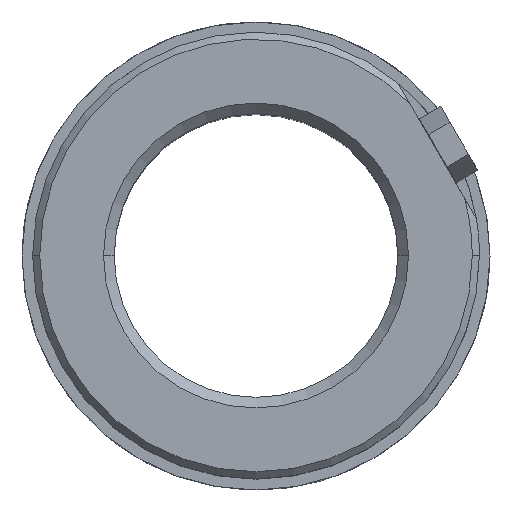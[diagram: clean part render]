
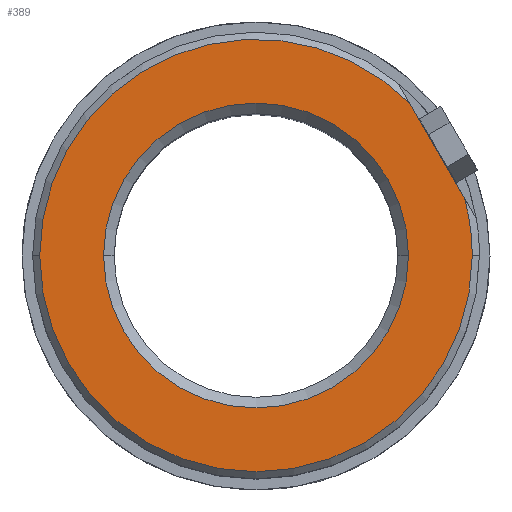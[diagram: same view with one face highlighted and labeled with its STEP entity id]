
A CAD part, top view. The second image highlights one B-rep face of the part: STEP entity #389.
In plain terms, the highlighted planar face has unit normal (0, 0, 1).
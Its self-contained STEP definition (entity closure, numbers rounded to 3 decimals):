
#262=CARTESIAN_POINT('Axis2P3D Location',(0.,0.,45.)) ;
#266=CARTESIAN_POINT('Vertex',(21.5,0.,45.)) ;
#268=CARTESIAN_POINT('Vertex',(-21.5,0.,45.)) ;
#341=CARTESIAN_POINT('Axis2P3D Location',(21.5,0.,45.)) ;
#346=CARTESIAN_POINT('Line Origine',(25.548,14.75,45.)) ;
#350=CARTESIAN_POINT('Vertex',(29.421,8.042,45.)) ;
#352=CARTESIAN_POINT('Vertex',(21.675,21.458,45.)) ;
#355=CARTESIAN_POINT('Axis2P3D Location',(0.,0.,45.)) ;
#359=CARTESIAN_POINT('Vertex',(-30.5,0.,45.)) ;
#362=CARTESIAN_POINT('Axis2P3D Location',(0.,0.,45.)) ;
#366=CARTESIAN_POINT('Vertex',(30.5,0.,45.)) ;
#369=CARTESIAN_POINT('Axis2P3D Location',(0.,0.,45.)) ;
#380=CARTESIAN_POINT('Axis2P3D Location',(0.,0.,45.)) ;
#263=DIRECTION('Axis2P3D Direction',(0.,-0.,1.)) ;
#342=DIRECTION('Axis2P3D Direction',(0.,-0.,1.)) ;
#343=DIRECTION('Axis2P3D XDirection',(1.,0.,0.)) ;
#347=DIRECTION('Vector Direction',(-0.5,0.866,0.)) ;
#356=DIRECTION('Axis2P3D Direction',(0.,-0.,1.)) ;
#363=DIRECTION('Axis2P3D Direction',(0.,-0.,1.)) ;
#370=DIRECTION('Axis2P3D Direction',(0.,-0.,1.)) ;
#381=DIRECTION('Axis2P3D Direction',(0.,-0.,1.)) ;
#264=AXIS2_PLACEMENT_3D('Circle Axis2P3D',#262,#263,$) ;
#344=AXIS2_PLACEMENT_3D('Plane Axis2P3D',#341,#342,#343) ;
#357=AXIS2_PLACEMENT_3D('Circle Axis2P3D',#355,#356,$) ;
#364=AXIS2_PLACEMENT_3D('Circle Axis2P3D',#362,#363,$) ;
#371=AXIS2_PLACEMENT_3D('Circle Axis2P3D',#369,#370,$) ;
#382=AXIS2_PLACEMENT_3D('Circle Axis2P3D',#380,#381,$) ;
#375=ORIENTED_EDGE('',*,*,#354,.T.) ;
#376=ORIENTED_EDGE('',*,*,#361,.T.) ;
#377=ORIENTED_EDGE('',*,*,#368,.T.) ;
#378=ORIENTED_EDGE('',*,*,#373,.T.) ;
#386=ORIENTED_EDGE('',*,*,#384,.F.) ;
#387=ORIENTED_EDGE('',*,*,#270,.F.) ;
#388=FACE_BOUND('',#385,.T.) ;
#348=VECTOR('Line Direction',#347,1.) ;
#389=ADVANCED_FACE('741-40',(#379,#388),#345,.T.) ;
#265=CIRCLE('generated circle',#264,21.5) ;
#358=CIRCLE('generated circle',#357,30.5) ;
#365=CIRCLE('generated circle',#364,30.5) ;
#372=CIRCLE('generated circle',#371,30.5) ;
#383=CIRCLE('generated circle',#382,21.5) ;
#270=EDGE_CURVE('',#267,#269,#265,.T.) ;
#354=EDGE_CURVE('',#351,#353,#349,.T.) ;
#361=EDGE_CURVE('',#353,#360,#358,.T.) ;
#368=EDGE_CURVE('',#360,#367,#365,.T.) ;
#373=EDGE_CURVE('',#367,#351,#372,.T.) ;
#384=EDGE_CURVE('',#269,#267,#383,.T.) ;
#374=EDGE_LOOP('',(#375,#376,#377,#378)) ;
#385=EDGE_LOOP('',(#386,#387)) ;
#379=FACE_OUTER_BOUND('',#374,.T.) ;
#349=LINE('Line',#346,#348) ;
#345=PLANE('Plane',#344) ;
#267=VERTEX_POINT('',#266) ;
#269=VERTEX_POINT('',#268) ;
#351=VERTEX_POINT('',#350) ;
#353=VERTEX_POINT('',#352) ;
#360=VERTEX_POINT('',#359) ;
#367=VERTEX_POINT('',#366) ;
